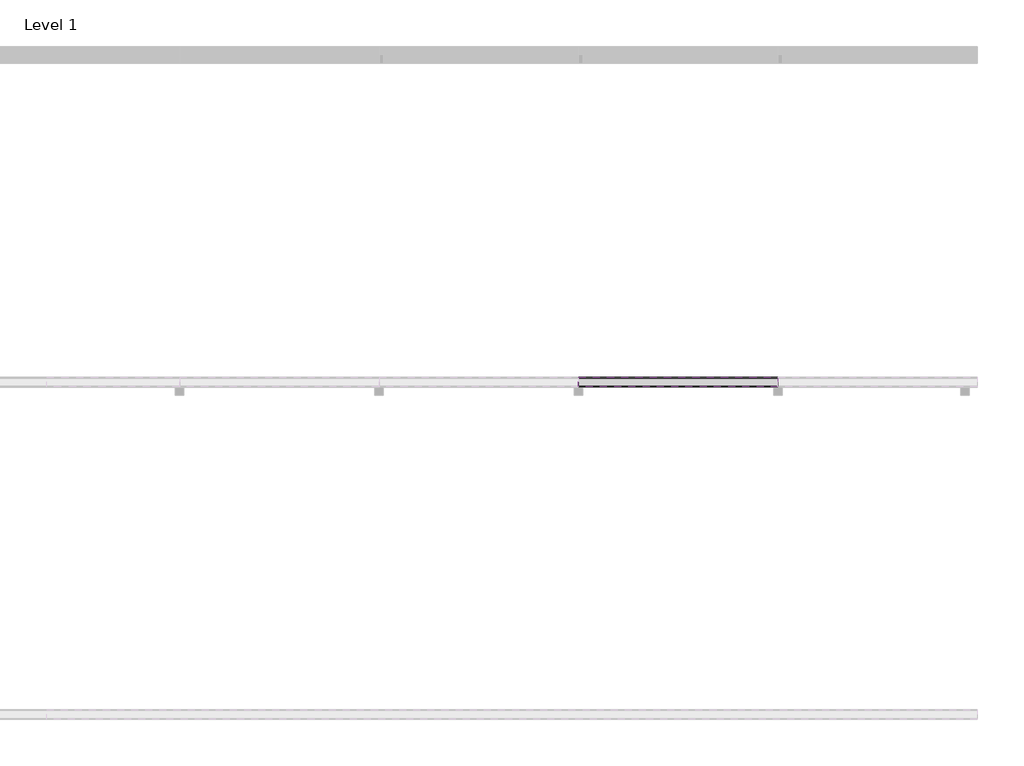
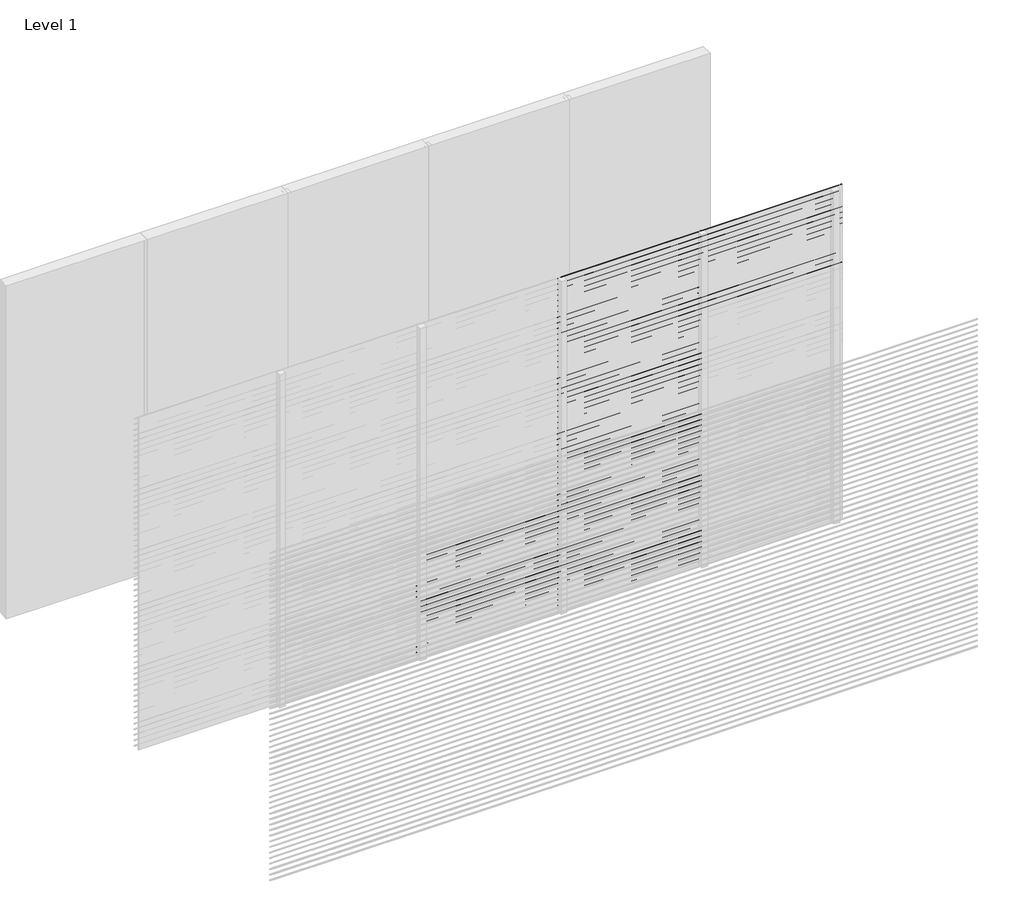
# One storey, part 8 of 16: 93 proxies.
"""IFC4 building model written with IfcOpenShell, lengths in millimetres."""

from ifc_helpers import new_model, si_unit, frame, origin, place, context, project, spatial, polyline, outline, extrude, element, save

model = new_model("IFC4")

# Units and contexts
model_context = context("Model", 3, world=origin())
ifc_project = project(units=[si_unit("LENGTHUNIT", "METRE", prefix="MILLI")], contexts=[model_context])

# Site, building, storey
site = spatial("IfcSite", under=ifc_project)
building = spatial("IfcBuilding", under=site)
storey = spatial("IfcBuildingStorey", under=building, Name="Level 1", Elevation=0.0)

# Proxies
placement = place(None, origin())
element("IfcBuildingElementProxy", 1, Name="Wall Sweeps", at=placement, inside=storey, context=model_context, shape_type="SweptSolid", body=[
    extrude(outline(polyline([(-11995.0, 900.0), (-11995.0, 898.0), (-11939.0, 854.0), (-11939.0, 846.0), (-11997.0, 891.5714286), (-11997.0, 900.0), (-11995.0, 900.0)])), frame((2400.0, 0.0, 0.0), z_axis=(1.0, 0.0, 0.0), x_axis=(0.0, 1.0, 0.0)), (0.0, 0.0, 1.0), 1200.0),
])
element("IfcBuildingElementProxy", 2, Name="Wall Sweeps", at=placement, inside=storey, context=model_context, shape_type="SweptSolid", body=[
    extrude(outline(polyline([(-11995.0, 850.0), (-11995.0, 848.0), (-11939.0, 804.0), (-11939.0, 796.0), (-11997.0, 841.5714286), (-11997.0, 850.0), (-11995.0, 850.0)])), frame((2400.0, 0.0, 0.0), z_axis=(1.0, 0.0, 0.0), x_axis=(0.0, 1.0, 0.0)), (0.0, 0.0, 1.0), 1200.0),
])
element("IfcBuildingElementProxy", 3, Name="Wall Sweeps", at=placement, inside=storey, context=model_context, shape_type="SweptSolid", body=[
    extrude(outline(polyline([(-11995.0, 800.0), (-11995.0, 798.0), (-11939.0, 754.0), (-11939.0, 746.0), (-11997.0, 791.5714286), (-11997.0, 800.0), (-11995.0, 800.0)])), frame((2400.0, 0.0, 0.0), z_axis=(1.0, 0.0, 0.0), x_axis=(0.0, 1.0, 0.0)), (0.0, 0.0, 1.0), 1200.0),
])
element("IfcBuildingElementProxy", 4, Name="Wall Sweeps", at=placement, inside=storey, context=model_context, shape_type="SweptSolid", body=[
    extrude(outline(polyline([(-11995.0, 750.0), (-11995.0, 748.0), (-11939.0, 704.0), (-11939.0, 696.0), (-11997.0, 741.5714286), (-11997.0, 750.0), (-11995.0, 750.0)])), frame((2400.0, 0.0, 0.0), z_axis=(1.0, 0.0, 0.0), x_axis=(0.0, 1.0, 0.0)), (0.0, 0.0, 1.0), 1200.0),
])
element("IfcBuildingElementProxy", 5, Name="Wall Sweeps", at=placement, inside=storey, context=model_context, shape_type="SweptSolid", body=[
    extrude(outline(polyline([(-11995.0, 700.0), (-11995.0, 698.0), (-11939.0, 654.0), (-11939.0, 646.0), (-11997.0, 691.5714286), (-11997.0, 700.0), (-11995.0, 700.0)])), frame((2400.0, 0.0, 0.0), z_axis=(1.0, 0.0, 0.0), x_axis=(0.0, 1.0, 0.0)), (0.0, 0.0, 1.0), 1200.0),
])
element("IfcBuildingElementProxy", 6, Name="Wall Sweeps", at=placement, inside=storey, context=model_context, shape_type="SweptSolid", body=[
    extrude(outline(polyline([(-11995.0, 650.0), (-11995.0, 648.0), (-11939.0, 604.0), (-11939.0, 596.0), (-11997.0, 641.5714286), (-11997.0, 650.0), (-11995.0, 650.0)])), frame((2400.0, 0.0, 0.0), z_axis=(1.0, 0.0, 0.0), x_axis=(0.0, 1.0, 0.0)), (0.0, 0.0, 1.0), 1200.0),
])
element("IfcBuildingElementProxy", 7, Name="Wall Sweeps", at=placement, inside=storey, context=model_context, shape_type="SweptSolid", body=[
    extrude(outline(polyline([(-11995.0, 600.0), (-11995.0, 598.0), (-11939.0, 554.0), (-11939.0, 546.0), (-11997.0, 591.5714286), (-11997.0, 600.0), (-11995.0, 600.0)])), frame((2400.0, 0.0, 0.0), z_axis=(1.0, 0.0, 0.0), x_axis=(0.0, 1.0, 0.0)), (0.0, 0.0, 1.0), 1200.0),
])
element("IfcBuildingElementProxy", 8, Name="Wall Sweeps", at=placement, inside=storey, context=model_context, shape_type="SweptSolid", body=[
    extrude(outline(polyline([(-11995.0, 550.0), (-11995.0, 548.0), (-11939.0, 504.0), (-11939.0, 496.0), (-11997.0, 541.5714286), (-11997.0, 550.0), (-11995.0, 550.0)])), frame((2400.0, 0.0, 0.0), z_axis=(1.0, 0.0, 0.0), x_axis=(0.0, 1.0, 0.0)), (0.0, 0.0, 1.0), 1200.0),
])
element("IfcBuildingElementProxy", 9, Name="Wall Sweeps", at=placement, inside=storey, context=model_context, shape_type="SweptSolid", body=[
    extrude(outline(polyline([(-11995.0, 500.0), (-11995.0, 498.0), (-11939.0, 454.0), (-11939.0, 446.0), (-11997.0, 491.5714286), (-11997.0, 500.0), (-11995.0, 500.0)])), frame((2400.0, 0.0, 0.0), z_axis=(1.0, 0.0, 0.0), x_axis=(0.0, 1.0, 0.0)), (0.0, 0.0, 1.0), 1200.0),
])
element("IfcBuildingElementProxy", 10, Name="Wall Sweeps", at=placement, inside=storey, context=model_context, shape_type="SweptSolid", body=[
    extrude(outline(polyline([(-11995.0, 450.0), (-11995.0, 448.0), (-11939.0, 404.0), (-11939.0, 396.0), (-11997.0, 441.5714286), (-11997.0, 450.0), (-11995.0, 450.0)])), frame((2400.0, 0.0, 0.0), z_axis=(1.0, 0.0, 0.0), x_axis=(0.0, 1.0, 0.0)), (0.0, 0.0, 1.0), 1200.0),
])
element("IfcBuildingElementProxy", 11, Name="Wall Sweeps", at=placement, inside=storey, context=model_context, shape_type="SweptSolid", body=[
    extrude(outline(polyline([(-11995.0, 400.0), (-11995.0, 398.0), (-11939.0, 354.0), (-11939.0, 346.0), (-11997.0, 391.5714286), (-11997.0, 400.0), (-11995.0, 400.0)])), frame((2400.0, 0.0, 0.0), z_axis=(1.0, 0.0, 0.0), x_axis=(0.0, 1.0, 0.0)), (0.0, 0.0, 1.0), 1200.0),
])
element("IfcBuildingElementProxy", 12, Name="Wall Sweeps", at=placement, inside=storey, context=model_context, shape_type="SweptSolid", body=[
    extrude(outline(polyline([(-11995.0, 350.0), (-11995.0, 348.0), (-11939.0, 304.0), (-11939.0, 296.0), (-11997.0, 341.5714286), (-11997.0, 350.0), (-11995.0, 350.0)])), frame((2400.0, 0.0, 0.0), z_axis=(1.0, 0.0, 0.0), x_axis=(0.0, 1.0, 0.0)), (0.0, 0.0, 1.0), 1200.0),
])
element("IfcBuildingElementProxy", 13, Name="Wall Sweeps", at=placement, inside=storey, context=model_context, shape_type="SweptSolid", body=[
    extrude(outline(polyline([(-11995.0, 300.0), (-11995.0, 298.0), (-11939.0, 254.0), (-11939.0, 246.0), (-11997.0, 291.5714286), (-11997.0, 300.0), (-11995.0, 300.0)])), frame((2400.0, 0.0, 0.0), z_axis=(1.0, 0.0, 0.0), x_axis=(0.0, 1.0, 0.0)), (0.0, 0.0, 1.0), 1200.0),
])
element("IfcBuildingElementProxy", 14, Name="Wall Sweeps", at=placement, inside=storey, context=model_context, shape_type="SweptSolid", body=[
    extrude(outline(polyline([(-11995.0, 250.0), (-11995.0, 248.0), (-11939.0, 204.0), (-11939.0, 196.0), (-11997.0, 241.5714286), (-11997.0, 250.0), (-11995.0, 250.0)])), frame((2400.0, 0.0, 0.0), z_axis=(1.0, 0.0, 0.0), x_axis=(0.0, 1.0, 0.0)), (0.0, 0.0, 1.0), 1200.0),
])
element("IfcBuildingElementProxy", 15, Name="Wall Sweeps", at=placement, inside=storey, context=model_context, shape_type="SweptSolid", body=[
    extrude(outline(polyline([(-11995.0, 200.0), (-11995.0, 198.0), (-11939.0, 154.0), (-11939.0, 146.0), (-11997.0, 191.5714286), (-11997.0, 200.0), (-11995.0, 200.0)])), frame((2400.0, 0.0, 0.0), z_axis=(1.0, 0.0, 0.0), x_axis=(0.0, 1.0, 0.0)), (0.0, 0.0, 1.0), 1200.0),
])
element("IfcBuildingElementProxy", 16, Name="Wall Sweeps", at=placement, inside=storey, context=model_context, shape_type="SweptSolid", body=[
    extrude(outline(polyline([(-11995.0, 150.0), (-11995.0, 148.0), (-11939.0, 104.0), (-11939.0, 96.0), (-11997.0, 141.5714286), (-11997.0, 150.0), (-11995.0, 150.0)])), frame((2400.0, 0.0, 0.0), z_axis=(1.0, 0.0, 0.0), x_axis=(0.0, 1.0, 0.0)), (0.0, 0.0, 1.0), 1200.0),
])
element("IfcBuildingElementProxy", 17, Name="Wall Sweeps", at=placement, inside=storey, context=model_context, shape_type="SweptSolid", body=[
    extrude(outline(polyline([(-11995.0, 100.0), (-11995.0, 98.0), (-11939.0, 54.0), (-11939.0, 46.0), (-11997.0, 91.5714286), (-11997.0, 100.0), (-11995.0, 100.0)])), frame((2400.0, 0.0, 0.0), z_axis=(1.0, 0.0, 0.0), x_axis=(0.0, 1.0, 0.0)), (0.0, 0.0, 1.0), 1200.0),
])
element("IfcBuildingElementProxy", 18, Name="Wall Sweeps", at=placement, inside=storey, context=model_context, shape_type="SweptSolid", body=[
    extrude(outline(polyline([(-11995.0, 50.0), (-11995.0, 48.0), (-11939.0, 4.0), (-11939.0, -4.0), (-11997.0, 41.5714286), (-11997.0, 50.0), (-11995.0, 50.0)])), frame((2400.0, 0.0, 0.0), z_axis=(1.0, 0.0, 0.0), x_axis=(0.0, 1.0, 0.0)), (0.0, 0.0, 1.0), 1200.0),
])
element("IfcBuildingElementProxy", 19, Name="Wall Sweeps", at=placement, inside=storey, context=model_context, shape_type="SweptSolid", body=[
    extrude(outline(polyline([(-11995.0, 3000.0), (-11995.0, 2998.0), (-11939.0, 2954.0), (-11939.0, 2946.0), (-11997.0, 2991.5714286), (-11997.0, 3000.0), (-11995.0, 3000.0)])), frame((3600.0, 0.0, 0.0), z_axis=(1.0, 0.0, 0.0), x_axis=(0.0, 1.0, 0.0)), (0.0, 0.0, 1.0), 1200.0),
])
element("IfcBuildingElementProxy", 20, Name="Wall Sweeps", at=placement, inside=storey, context=model_context, shape_type="SweptSolid", body=[
    extrude(outline(polyline([(-11995.0, 2950.0), (-11995.0, 2948.0), (-11939.0, 2904.0), (-11939.0, 2896.0), (-11997.0, 2941.5714286), (-11997.0, 2950.0), (-11995.0, 2950.0)])), frame((3600.0, 0.0, 0.0), z_axis=(1.0, 0.0, 0.0), x_axis=(0.0, 1.0, 0.0)), (0.0, 0.0, 1.0), 1200.0),
])
element("IfcBuildingElementProxy", 21, Name="Wall Sweeps", at=placement, inside=storey, context=model_context, shape_type="SweptSolid", body=[
    extrude(outline(polyline([(-11995.0, 2900.0), (-11995.0, 2898.0), (-11939.0, 2854.0), (-11939.0, 2846.0), (-11997.0, 2891.5714286), (-11997.0, 2900.0), (-11995.0, 2900.0)])), frame((3600.0, 0.0, 0.0), z_axis=(1.0, 0.0, 0.0), x_axis=(0.0, 1.0, 0.0)), (0.0, 0.0, 1.0), 1200.0),
])
element("IfcBuildingElementProxy", 22, Name="Wall Sweeps", at=placement, inside=storey, context=model_context, shape_type="SweptSolid", body=[
    extrude(outline(polyline([(-11995.0, 2850.0), (-11995.0, 2848.0), (-11939.0, 2804.0), (-11939.0, 2796.0), (-11997.0, 2841.5714286), (-11997.0, 2850.0), (-11995.0, 2850.0)])), frame((3600.0, 0.0, 0.0), z_axis=(1.0, 0.0, 0.0), x_axis=(0.0, 1.0, 0.0)), (0.0, 0.0, 1.0), 1200.0),
])
element("IfcBuildingElementProxy", 23, Name="Wall Sweeps", at=placement, inside=storey, context=model_context, shape_type="SweptSolid", body=[
    extrude(outline(polyline([(-11995.0, 2800.0), (-11995.0, 2798.0), (-11939.0, 2754.0), (-11939.0, 2746.0), (-11997.0, 2791.5714286), (-11997.0, 2800.0), (-11995.0, 2800.0)])), frame((3600.0, 0.0, 0.0), z_axis=(1.0, 0.0, 0.0), x_axis=(0.0, 1.0, 0.0)), (0.0, 0.0, 1.0), 1200.0),
])
element("IfcBuildingElementProxy", 24, Name="Wall Sweeps", at=placement, inside=storey, context=model_context, shape_type="SweptSolid", body=[
    extrude(outline(polyline([(-11995.0, 2750.0), (-11995.0, 2748.0), (-11939.0, 2704.0), (-11939.0, 2696.0), (-11997.0, 2741.5714286), (-11997.0, 2750.0), (-11995.0, 2750.0)])), frame((3600.0, 0.0, 0.0), z_axis=(1.0, 0.0, 0.0), x_axis=(0.0, 1.0, 0.0)), (0.0, 0.0, 1.0), 1200.0),
])
element("IfcBuildingElementProxy", 25, Name="Wall Sweeps", at=placement, inside=storey, context=model_context, shape_type="SweptSolid", body=[
    extrude(outline(polyline([(-11995.0, 2700.0), (-11995.0, 2698.0), (-11939.0, 2654.0), (-11939.0, 2646.0), (-11997.0, 2691.5714286), (-11997.0, 2700.0), (-11995.0, 2700.0)])), frame((3600.0, 0.0, 0.0), z_axis=(1.0, 0.0, 0.0), x_axis=(0.0, 1.0, 0.0)), (0.0, 0.0, 1.0), 1200.0),
])
element("IfcBuildingElementProxy", 26, Name="Wall Sweeps", at=placement, inside=storey, context=model_context, shape_type="SweptSolid", body=[
    extrude(outline(polyline([(-11995.0, 2650.0), (-11995.0, 2648.0), (-11939.0, 2604.0), (-11939.0, 2596.0), (-11997.0, 2641.5714286), (-11997.0, 2650.0), (-11995.0, 2650.0)])), frame((3600.0, 0.0, 0.0), z_axis=(1.0, 0.0, 0.0), x_axis=(0.0, 1.0, 0.0)), (0.0, 0.0, 1.0), 1200.0),
])
element("IfcBuildingElementProxy", 27, Name="Wall Sweeps", at=placement, inside=storey, context=model_context, shape_type="SweptSolid", body=[
    extrude(outline(polyline([(-11995.0, 2600.0), (-11995.0, 2598.0), (-11939.0, 2554.0), (-11939.0, 2546.0), (-11997.0, 2591.5714286), (-11997.0, 2600.0), (-11995.0, 2600.0)])), frame((3600.0, 0.0, 0.0), z_axis=(1.0, 0.0, 0.0), x_axis=(0.0, 1.0, 0.0)), (0.0, 0.0, 1.0), 1200.0),
])
element("IfcBuildingElementProxy", 28, Name="Wall Sweeps", at=placement, inside=storey, context=model_context, shape_type="SweptSolid", body=[
    extrude(outline(polyline([(-11995.0, 2550.0), (-11995.0, 2548.0), (-11939.0, 2504.0), (-11939.0, 2496.0), (-11997.0, 2541.5714286), (-11997.0, 2550.0), (-11995.0, 2550.0)])), frame((3600.0, 0.0, 0.0), z_axis=(1.0, 0.0, 0.0), x_axis=(0.0, 1.0, 0.0)), (0.0, 0.0, 1.0), 1200.0),
])
element("IfcBuildingElementProxy", 29, Name="Wall Sweeps", at=placement, inside=storey, context=model_context, shape_type="SweptSolid", body=[
    extrude(outline(polyline([(-11995.0, 2500.0), (-11995.0, 2498.0), (-11939.0, 2454.0), (-11939.0, 2446.0), (-11997.0, 2491.5714286), (-11997.0, 2500.0), (-11995.0, 2500.0)])), frame((3600.0, 0.0, 0.0), z_axis=(1.0, 0.0, 0.0), x_axis=(0.0, 1.0, 0.0)), (0.0, 0.0, 1.0), 1200.0),
])
element("IfcBuildingElementProxy", 30, Name="Wall Sweeps", at=placement, inside=storey, context=model_context, shape_type="SweptSolid", body=[
    extrude(outline(polyline([(-11995.0, 2450.0), (-11995.0, 2448.0), (-11939.0, 2404.0), (-11939.0, 2396.0), (-11997.0, 2441.5714286), (-11997.0, 2450.0), (-11995.0, 2450.0)])), frame((3600.0, 0.0, 0.0), z_axis=(1.0, 0.0, 0.0), x_axis=(0.0, 1.0, 0.0)), (0.0, 0.0, 1.0), 1200.0),
])
element("IfcBuildingElementProxy", 31, Name="Wall Sweeps", at=placement, inside=storey, context=model_context, shape_type="SweptSolid", body=[
    extrude(outline(polyline([(-11995.0, 2400.0), (-11995.0, 2398.0), (-11939.0, 2354.0), (-11939.0, 2346.0), (-11997.0, 2391.5714286), (-11997.0, 2400.0), (-11995.0, 2400.0)])), frame((3600.0, 0.0, 0.0), z_axis=(1.0, 0.0, 0.0), x_axis=(0.0, 1.0, 0.0)), (0.0, 0.0, 1.0), 1200.0),
])
element("IfcBuildingElementProxy", 32, Name="Wall Sweeps", at=placement, inside=storey, context=model_context, shape_type="SweptSolid", body=[
    extrude(outline(polyline([(-11995.0, 2350.0), (-11995.0, 2348.0), (-11939.0, 2304.0), (-11939.0, 2296.0), (-11997.0, 2341.5714286), (-11997.0, 2350.0), (-11995.0, 2350.0)])), frame((3600.0, 0.0, 0.0), z_axis=(1.0, 0.0, 0.0), x_axis=(0.0, 1.0, 0.0)), (0.0, 0.0, 1.0), 1200.0),
])
element("IfcBuildingElementProxy", 33, Name="Wall Sweeps", at=placement, inside=storey, context=model_context, shape_type="SweptSolid", body=[
    extrude(outline(polyline([(-11995.0, 2300.0), (-11995.0, 2298.0), (-11939.0, 2254.0), (-11939.0, 2246.0), (-11997.0, 2291.5714286), (-11997.0, 2300.0), (-11995.0, 2300.0)])), frame((3600.0, 0.0, 0.0), z_axis=(1.0, 0.0, 0.0), x_axis=(0.0, 1.0, 0.0)), (0.0, 0.0, 1.0), 1200.0),
])
element("IfcBuildingElementProxy", 34, Name="Wall Sweeps", at=placement, inside=storey, context=model_context, shape_type="SweptSolid", body=[
    extrude(outline(polyline([(-11995.0, 2250.0), (-11995.0, 2248.0), (-11939.0, 2204.0), (-11939.0, 2196.0), (-11997.0, 2241.5714286), (-11997.0, 2250.0), (-11995.0, 2250.0)])), frame((3600.0, 0.0, 0.0), z_axis=(1.0, 0.0, 0.0), x_axis=(0.0, 1.0, 0.0)), (0.0, 0.0, 1.0), 1200.0),
])
element("IfcBuildingElementProxy", 35, Name="Wall Sweeps", at=placement, inside=storey, context=model_context, shape_type="SweptSolid", body=[
    extrude(outline(polyline([(-11995.0, 2200.0), (-11995.0, 2198.0), (-11939.0, 2154.0), (-11939.0, 2146.0), (-11997.0, 2191.5714286), (-11997.0, 2200.0), (-11995.0, 2200.0)])), frame((3600.0, 0.0, 0.0), z_axis=(1.0, 0.0, 0.0), x_axis=(0.0, 1.0, 0.0)), (0.0, 0.0, 1.0), 1200.0),
])
element("IfcBuildingElementProxy", 36, Name="Wall Sweeps", at=placement, inside=storey, context=model_context, shape_type="SweptSolid", body=[
    extrude(outline(polyline([(-11995.0, 2150.0), (-11995.0, 2148.0), (-11939.0, 2104.0), (-11939.0, 2096.0), (-11997.0, 2141.5714286), (-11997.0, 2150.0), (-11995.0, 2150.0)])), frame((3600.0, 0.0, 0.0), z_axis=(1.0, 0.0, 0.0), x_axis=(0.0, 1.0, 0.0)), (0.0, 0.0, 1.0), 1200.0),
])
element("IfcBuildingElementProxy", 37, Name="Wall Sweeps", at=placement, inside=storey, context=model_context, shape_type="SweptSolid", body=[
    extrude(outline(polyline([(-11995.0, 2100.0), (-11995.0, 2098.0), (-11939.0, 2054.0), (-11939.0, 2046.0), (-11997.0, 2091.5714286), (-11997.0, 2100.0), (-11995.0, 2100.0)])), frame((3600.0, 0.0, 0.0), z_axis=(1.0, 0.0, 0.0), x_axis=(0.0, 1.0, 0.0)), (0.0, 0.0, 1.0), 1200.0),
])
element("IfcBuildingElementProxy", 38, Name="Wall Sweeps", at=placement, inside=storey, context=model_context, shape_type="SweptSolid", body=[
    extrude(outline(polyline([(-11995.0, 2050.0), (-11995.0, 2048.0), (-11939.0, 2004.0), (-11939.0, 1996.0), (-11997.0, 2041.5714286), (-11997.0, 2050.0), (-11995.0, 2050.0)])), frame((3600.0, 0.0, 0.0), z_axis=(1.0, 0.0, 0.0), x_axis=(0.0, 1.0, 0.0)), (0.0, 0.0, 1.0), 1200.0),
])
element("IfcBuildingElementProxy", 39, Name="Wall Sweeps", at=placement, inside=storey, context=model_context, shape_type="SweptSolid", body=[
    extrude(outline(polyline([(-11995.0, 2000.0), (-11995.0, 1998.0), (-11939.0, 1954.0), (-11939.0, 1946.0), (-11997.0, 1991.5714286), (-11997.0, 2000.0), (-11995.0, 2000.0)])), frame((3600.0, 0.0, 0.0), z_axis=(1.0, 0.0, 0.0), x_axis=(0.0, 1.0, 0.0)), (0.0, 0.0, 1.0), 1200.0),
])
element("IfcBuildingElementProxy", 40, Name="Wall Sweeps", at=placement, inside=storey, context=model_context, shape_type="SweptSolid", body=[
    extrude(outline(polyline([(-11995.0, 1950.0), (-11995.0, 1948.0), (-11939.0, 1904.0), (-11939.0, 1896.0), (-11997.0, 1941.5714286), (-11997.0, 1950.0), (-11995.0, 1950.0)])), frame((3600.0, 0.0, 0.0), z_axis=(1.0, 0.0, 0.0), x_axis=(0.0, 1.0, 0.0)), (0.0, 0.0, 1.0), 1200.0),
])
element("IfcBuildingElementProxy", 41, Name="Wall Sweeps", at=placement, inside=storey, context=model_context, shape_type="SweptSolid", body=[
    extrude(outline(polyline([(-11995.0, 1900.0), (-11995.0, 1898.0), (-11939.0, 1854.0), (-11939.0, 1846.0), (-11997.0, 1891.5714286), (-11997.0, 1900.0), (-11995.0, 1900.0)])), frame((3600.0, 0.0, 0.0), z_axis=(1.0, 0.0, 0.0), x_axis=(0.0, 1.0, 0.0)), (0.0, 0.0, 1.0), 1200.0),
])
element("IfcBuildingElementProxy", 42, Name="Wall Sweeps", at=placement, inside=storey, context=model_context, shape_type="SweptSolid", body=[
    extrude(outline(polyline([(-11995.0, 1850.0), (-11995.0, 1848.0), (-11939.0, 1804.0), (-11939.0, 1796.0), (-11997.0, 1841.5714286), (-11997.0, 1850.0), (-11995.0, 1850.0)])), frame((3600.0, 0.0, 0.0), z_axis=(1.0, 0.0, 0.0), x_axis=(0.0, 1.0, 0.0)), (0.0, 0.0, 1.0), 1200.0),
])
element("IfcBuildingElementProxy", 43, Name="Wall Sweeps", at=placement, inside=storey, context=model_context, shape_type="SweptSolid", body=[
    extrude(outline(polyline([(-11995.0, 1800.0), (-11995.0, 1798.0), (-11939.0, 1754.0), (-11939.0, 1746.0), (-11997.0, 1791.5714286), (-11997.0, 1800.0), (-11995.0, 1800.0)])), frame((3600.0, 0.0, 0.0), z_axis=(1.0, 0.0, 0.0), x_axis=(0.0, 1.0, 0.0)), (0.0, 0.0, 1.0), 1200.0),
])
element("IfcBuildingElementProxy", 44, Name="Wall Sweeps", at=placement, inside=storey, context=model_context, shape_type="SweptSolid", body=[
    extrude(outline(polyline([(-11995.0, 1750.0), (-11995.0, 1748.0), (-11939.0, 1704.0), (-11939.0, 1696.0), (-11997.0, 1741.5714286), (-11997.0, 1750.0), (-11995.0, 1750.0)])), frame((3600.0, 0.0, 0.0), z_axis=(1.0, 0.0, 0.0), x_axis=(0.0, 1.0, 0.0)), (0.0, 0.0, 1.0), 1200.0),
])
element("IfcBuildingElementProxy", 45, Name="Wall Sweeps", at=placement, inside=storey, context=model_context, shape_type="SweptSolid", body=[
    extrude(outline(polyline([(-11995.0, 1700.0), (-11995.0, 1698.0), (-11939.0, 1654.0), (-11939.0, 1646.0), (-11997.0, 1691.5714286), (-11997.0, 1700.0), (-11995.0, 1700.0)])), frame((3600.0, 0.0, 0.0), z_axis=(1.0, 0.0, 0.0), x_axis=(0.0, 1.0, 0.0)), (0.0, 0.0, 1.0), 1200.0),
])
element("IfcBuildingElementProxy", 46, Name="Wall Sweeps", at=placement, inside=storey, context=model_context, shape_type="SweptSolid", body=[
    extrude(outline(polyline([(-11995.0, 1650.0), (-11995.0, 1648.0), (-11939.0, 1604.0), (-11939.0, 1596.0), (-11997.0, 1641.5714286), (-11997.0, 1650.0), (-11995.0, 1650.0)])), frame((3600.0, 0.0, 0.0), z_axis=(1.0, 0.0, 0.0), x_axis=(0.0, 1.0, 0.0)), (0.0, 0.0, 1.0), 1200.0),
])
element("IfcBuildingElementProxy", 47, Name="Wall Sweeps", at=placement, inside=storey, context=model_context, shape_type="SweptSolid", body=[
    extrude(outline(polyline([(-11995.0, 1600.0), (-11995.0, 1598.0), (-11939.0, 1554.0), (-11939.0, 1546.0), (-11997.0, 1591.5714286), (-11997.0, 1600.0), (-11995.0, 1600.0)])), frame((3600.0, 0.0, 0.0), z_axis=(1.0, 0.0, 0.0), x_axis=(0.0, 1.0, 0.0)), (0.0, 0.0, 1.0), 1200.0),
])
element("IfcBuildingElementProxy", 48, Name="Wall Sweeps", at=placement, inside=storey, context=model_context, shape_type="SweptSolid", body=[
    extrude(outline(polyline([(-11995.0, 1550.0), (-11995.0, 1548.0), (-11939.0, 1504.0), (-11939.0, 1496.0), (-11997.0, 1541.5714286), (-11997.0, 1550.0), (-11995.0, 1550.0)])), frame((3600.0, 0.0, 0.0), z_axis=(1.0, 0.0, 0.0), x_axis=(0.0, 1.0, 0.0)), (0.0, 0.0, 1.0), 1200.0),
])
element("IfcBuildingElementProxy", 49, Name="Wall Sweeps", at=placement, inside=storey, context=model_context, shape_type="SweptSolid", body=[
    extrude(outline(polyline([(-11995.0, 1500.0), (-11995.0, 1498.0), (-11939.0, 1454.0), (-11939.0, 1446.0), (-11997.0, 1491.5714286), (-11997.0, 1500.0), (-11995.0, 1500.0)])), frame((3600.0, 0.0, 0.0), z_axis=(1.0, 0.0, 0.0), x_axis=(0.0, 1.0, 0.0)), (0.0, 0.0, 1.0), 1200.0),
])
element("IfcBuildingElementProxy", 50, Name="Wall Sweeps", at=placement, inside=storey, context=model_context, shape_type="SweptSolid", body=[
    extrude(outline(polyline([(-11995.0, 1450.0), (-11995.0, 1448.0), (-11939.0, 1404.0), (-11939.0, 1396.0), (-11997.0, 1441.5714286), (-11997.0, 1450.0), (-11995.0, 1450.0)])), frame((3600.0, 0.0, 0.0), z_axis=(1.0, 0.0, 0.0), x_axis=(0.0, 1.0, 0.0)), (0.0, 0.0, 1.0), 1200.0),
])
element("IfcBuildingElementProxy", 51, Name="Wall Sweeps", at=placement, inside=storey, context=model_context, shape_type="SweptSolid", body=[
    extrude(outline(polyline([(-11995.0, 1400.0), (-11995.0, 1398.0), (-11939.0, 1354.0), (-11939.0, 1346.0), (-11997.0, 1391.5714286), (-11997.0, 1400.0), (-11995.0, 1400.0)])), frame((3600.0, 0.0, 0.0), z_axis=(1.0, 0.0, 0.0), x_axis=(0.0, 1.0, 0.0)), (0.0, 0.0, 1.0), 1200.0),
])
element("IfcBuildingElementProxy", 52, Name="Wall Sweeps", at=placement, inside=storey, context=model_context, shape_type="SweptSolid", body=[
    extrude(outline(polyline([(-11995.0, 1350.0), (-11995.0, 1348.0), (-11939.0, 1304.0), (-11939.0, 1296.0), (-11997.0, 1341.5714286), (-11997.0, 1350.0), (-11995.0, 1350.0)])), frame((3600.0, 0.0, 0.0), z_axis=(1.0, 0.0, 0.0), x_axis=(0.0, 1.0, 0.0)), (0.0, 0.0, 1.0), 1200.0),
])
element("IfcBuildingElementProxy", 53, Name="Wall Sweeps", at=placement, inside=storey, context=model_context, shape_type="SweptSolid", body=[
    extrude(outline(polyline([(-11995.0, 1300.0), (-11995.0, 1298.0), (-11939.0, 1254.0), (-11939.0, 1246.0), (-11997.0, 1291.5714286), (-11997.0, 1300.0), (-11995.0, 1300.0)])), frame((3600.0, 0.0, 0.0), z_axis=(1.0, 0.0, 0.0), x_axis=(0.0, 1.0, 0.0)), (0.0, 0.0, 1.0), 1200.0),
])
element("IfcBuildingElementProxy", 54, Name="Wall Sweeps", at=placement, inside=storey, context=model_context, shape_type="SweptSolid", body=[
    extrude(outline(polyline([(-11995.0, 1250.0), (-11995.0, 1248.0), (-11939.0, 1204.0), (-11939.0, 1196.0), (-11997.0, 1241.5714286), (-11997.0, 1250.0), (-11995.0, 1250.0)])), frame((3600.0, 0.0, 0.0), z_axis=(1.0, 0.0, 0.0), x_axis=(0.0, 1.0, 0.0)), (0.0, 0.0, 1.0), 1200.0),
])
element("IfcBuildingElementProxy", 55, Name="Wall Sweeps", at=placement, inside=storey, context=model_context, shape_type="SweptSolid", body=[
    extrude(outline(polyline([(-11995.0, 1200.0), (-11995.0, 1198.0), (-11939.0, 1154.0), (-11939.0, 1146.0), (-11997.0, 1191.5714286), (-11997.0, 1200.0), (-11995.0, 1200.0)])), frame((3600.0, 0.0, 0.0), z_axis=(1.0, 0.0, 0.0), x_axis=(0.0, 1.0, 0.0)), (0.0, 0.0, 1.0), 1200.0),
])
element("IfcBuildingElementProxy", 56, Name="Wall Sweeps", at=placement, inside=storey, context=model_context, shape_type="SweptSolid", body=[
    extrude(outline(polyline([(-11995.0, 1150.0), (-11995.0, 1148.0), (-11939.0, 1104.0), (-11939.0, 1096.0), (-11997.0, 1141.5714286), (-11997.0, 1150.0), (-11995.0, 1150.0)])), frame((3600.0, 0.0, 0.0), z_axis=(1.0, 0.0, 0.0), x_axis=(0.0, 1.0, 0.0)), (0.0, 0.0, 1.0), 1200.0),
])
element("IfcBuildingElementProxy", 57, Name="Wall Sweeps", at=placement, inside=storey, context=model_context, shape_type="SweptSolid", body=[
    extrude(outline(polyline([(-11995.0, 1100.0), (-11995.0, 1098.0), (-11939.0, 1054.0), (-11939.0, 1046.0), (-11997.0, 1091.5714286), (-11997.0, 1100.0), (-11995.0, 1100.0)])), frame((3600.0, 0.0, 0.0), z_axis=(1.0, 0.0, 0.0), x_axis=(0.0, 1.0, 0.0)), (0.0, 0.0, 1.0), 1200.0),
])
element("IfcBuildingElementProxy", 58, Name="Wall Sweeps", at=placement, inside=storey, context=model_context, shape_type="SweptSolid", body=[
    extrude(outline(polyline([(-11995.0, 1050.0), (-11995.0, 1048.0), (-11939.0, 1004.0), (-11939.0, 996.0), (-11997.0, 1041.5714286), (-11997.0, 1050.0), (-11995.0, 1050.0)])), frame((3600.0, 0.0, 0.0), z_axis=(1.0, 0.0, 0.0), x_axis=(0.0, 1.0, 0.0)), (0.0, 0.0, 1.0), 1200.0),
])
element("IfcBuildingElementProxy", 59, Name="Wall Sweeps", at=placement, inside=storey, context=model_context, shape_type="SweptSolid", body=[
    extrude(outline(polyline([(-11995.0, 1000.0), (-11995.0, 998.0), (-11939.0, 954.0), (-11939.0, 946.0), (-11997.0, 991.5714286), (-11997.0, 1000.0), (-11995.0, 1000.0)])), frame((3600.0, 0.0, 0.0), z_axis=(1.0, 0.0, 0.0), x_axis=(0.0, 1.0, 0.0)), (0.0, 0.0, 1.0), 1200.0),
])
element("IfcBuildingElementProxy", 60, Name="Wall Sweeps", at=placement, inside=storey, context=model_context, shape_type="SweptSolid", body=[
    extrude(outline(polyline([(-11995.0, 950.0), (-11995.0, 948.0), (-11939.0, 904.0), (-11939.0, 896.0), (-11997.0, 941.5714286), (-11997.0, 950.0), (-11995.0, 950.0)])), frame((3600.0, 0.0, 0.0), z_axis=(1.0, 0.0, 0.0), x_axis=(0.0, 1.0, 0.0)), (0.0, 0.0, 1.0), 1200.0),
])
element("IfcBuildingElementProxy", 61, Name="Wall Sweeps", at=placement, inside=storey, context=model_context, shape_type="SweptSolid", body=[
    extrude(outline(polyline([(-11995.0, 900.0), (-11995.0, 898.0), (-11939.0, 854.0), (-11939.0, 846.0), (-11997.0, 891.5714286), (-11997.0, 900.0), (-11995.0, 900.0)])), frame((3600.0, 0.0, 0.0), z_axis=(1.0, 0.0, 0.0), x_axis=(0.0, 1.0, 0.0)), (0.0, 0.0, 1.0), 1200.0),
])
element("IfcBuildingElementProxy", 62, Name="Wall Sweeps", at=placement, inside=storey, context=model_context, shape_type="SweptSolid", body=[
    extrude(outline(polyline([(-11995.0, 850.0), (-11995.0, 848.0), (-11939.0, 804.0), (-11939.0, 796.0), (-11997.0, 841.5714286), (-11997.0, 850.0), (-11995.0, 850.0)])), frame((3600.0, 0.0, 0.0), z_axis=(1.0, 0.0, 0.0), x_axis=(0.0, 1.0, 0.0)), (0.0, 0.0, 1.0), 1200.0),
])
element("IfcBuildingElementProxy", 63, Name="Wall Sweeps", at=placement, inside=storey, context=model_context, shape_type="SweptSolid", body=[
    extrude(outline(polyline([(-11995.0, 800.0), (-11995.0, 798.0), (-11939.0, 754.0), (-11939.0, 746.0), (-11997.0, 791.5714286), (-11997.0, 800.0), (-11995.0, 800.0)])), frame((3600.0, 0.0, 0.0), z_axis=(1.0, 0.0, 0.0), x_axis=(0.0, 1.0, 0.0)), (0.0, 0.0, 1.0), 1200.0),
])
element("IfcBuildingElementProxy", 64, Name="Wall Sweeps", at=placement, inside=storey, context=model_context, shape_type="SweptSolid", body=[
    extrude(outline(polyline([(-11995.0, 750.0), (-11995.0, 748.0), (-11939.0, 704.0), (-11939.0, 696.0), (-11997.0, 741.5714286), (-11997.0, 750.0), (-11995.0, 750.0)])), frame((3600.0, 0.0, 0.0), z_axis=(1.0, 0.0, 0.0), x_axis=(0.0, 1.0, 0.0)), (0.0, 0.0, 1.0), 1200.0),
])
element("IfcBuildingElementProxy", 65, Name="Wall Sweeps", at=placement, inside=storey, context=model_context, shape_type="SweptSolid", body=[
    extrude(outline(polyline([(-11995.0, 700.0), (-11995.0, 698.0), (-11939.0, 654.0), (-11939.0, 646.0), (-11997.0, 691.5714286), (-11997.0, 700.0), (-11995.0, 700.0)])), frame((3600.0, 0.0, 0.0), z_axis=(1.0, 0.0, 0.0), x_axis=(0.0, 1.0, 0.0)), (0.0, 0.0, 1.0), 1200.0),
])
element("IfcBuildingElementProxy", 66, Name="Wall Sweeps", at=placement, inside=storey, context=model_context, shape_type="SweptSolid", body=[
    extrude(outline(polyline([(-11995.0, 650.0), (-11995.0, 648.0), (-11939.0, 604.0), (-11939.0, 596.0), (-11997.0, 641.5714286), (-11997.0, 650.0), (-11995.0, 650.0)])), frame((3600.0, 0.0, 0.0), z_axis=(1.0, 0.0, 0.0), x_axis=(0.0, 1.0, 0.0)), (0.0, 0.0, 1.0), 1200.0),
])
element("IfcBuildingElementProxy", 67, Name="Wall Sweeps", at=placement, inside=storey, context=model_context, shape_type="SweptSolid", body=[
    extrude(outline(polyline([(-11995.0, 600.0), (-11995.0, 598.0), (-11939.0, 554.0), (-11939.0, 546.0), (-11997.0, 591.5714286), (-11997.0, 600.0), (-11995.0, 600.0)])), frame((3600.0, 0.0, 0.0), z_axis=(1.0, 0.0, 0.0), x_axis=(0.0, 1.0, 0.0)), (0.0, 0.0, 1.0), 1200.0),
])
element("IfcBuildingElementProxy", 68, Name="Wall Sweeps", at=placement, inside=storey, context=model_context, shape_type="SweptSolid", body=[
    extrude(outline(polyline([(-11995.0, 550.0), (-11995.0, 548.0), (-11939.0, 504.0), (-11939.0, 496.0), (-11997.0, 541.5714286), (-11997.0, 550.0), (-11995.0, 550.0)])), frame((3600.0, 0.0, 0.0), z_axis=(1.0, 0.0, 0.0), x_axis=(0.0, 1.0, 0.0)), (0.0, 0.0, 1.0), 1200.0),
])
element("IfcBuildingElementProxy", 69, Name="Wall Sweeps", at=placement, inside=storey, context=model_context, shape_type="SweptSolid", body=[
    extrude(outline(polyline([(-11995.0, 500.0), (-11995.0, 498.0), (-11939.0, 454.0), (-11939.0, 446.0), (-11997.0, 491.5714286), (-11997.0, 500.0), (-11995.0, 500.0)])), frame((3600.0, 0.0, 0.0), z_axis=(1.0, 0.0, 0.0), x_axis=(0.0, 1.0, 0.0)), (0.0, 0.0, 1.0), 1200.0),
])
element("IfcBuildingElementProxy", 70, Name="Wall Sweeps", at=placement, inside=storey, context=model_context, shape_type="SweptSolid", body=[
    extrude(outline(polyline([(-11995.0, 450.0), (-11995.0, 448.0), (-11939.0, 404.0), (-11939.0, 396.0), (-11997.0, 441.5714286), (-11997.0, 450.0), (-11995.0, 450.0)])), frame((3600.0, 0.0, 0.0), z_axis=(1.0, 0.0, 0.0), x_axis=(0.0, 1.0, 0.0)), (0.0, 0.0, 1.0), 1200.0),
])
element("IfcBuildingElementProxy", 71, Name="Wall Sweeps", at=placement, inside=storey, context=model_context, shape_type="SweptSolid", body=[
    extrude(outline(polyline([(-11995.0, 400.0), (-11995.0, 398.0), (-11939.0, 354.0), (-11939.0, 346.0), (-11997.0, 391.5714286), (-11997.0, 400.0), (-11995.0, 400.0)])), frame((3600.0, 0.0, 0.0), z_axis=(1.0, 0.0, 0.0), x_axis=(0.0, 1.0, 0.0)), (0.0, 0.0, 1.0), 1200.0),
])
element("IfcBuildingElementProxy", 72, Name="Wall Sweeps", at=placement, inside=storey, context=model_context, shape_type="SweptSolid", body=[
    extrude(outline(polyline([(-11995.0, 350.0), (-11995.0, 348.0), (-11939.0, 304.0), (-11939.0, 296.0), (-11997.0, 341.5714286), (-11997.0, 350.0), (-11995.0, 350.0)])), frame((3600.0, 0.0, 0.0), z_axis=(1.0, 0.0, 0.0), x_axis=(0.0, 1.0, 0.0)), (0.0, 0.0, 1.0), 1200.0),
])
element("IfcBuildingElementProxy", 73, Name="Wall Sweeps", at=placement, inside=storey, context=model_context, shape_type="SweptSolid", body=[
    extrude(outline(polyline([(-11995.0, 300.0), (-11995.0, 298.0), (-11939.0, 254.0), (-11939.0, 246.0), (-11997.0, 291.5714286), (-11997.0, 300.0), (-11995.0, 300.0)])), frame((3600.0, 0.0, 0.0), z_axis=(1.0, 0.0, 0.0), x_axis=(0.0, 1.0, 0.0)), (0.0, 0.0, 1.0), 1200.0),
])
element("IfcBuildingElementProxy", 74, Name="Wall Sweeps", at=placement, inside=storey, context=model_context, shape_type="SweptSolid", body=[
    extrude(outline(polyline([(-11995.0, 250.0), (-11995.0, 248.0), (-11939.0, 204.0), (-11939.0, 196.0), (-11997.0, 241.5714286), (-11997.0, 250.0), (-11995.0, 250.0)])), frame((3600.0, 0.0, 0.0), z_axis=(1.0, 0.0, 0.0), x_axis=(0.0, 1.0, 0.0)), (0.0, 0.0, 1.0), 1200.0),
])
element("IfcBuildingElementProxy", 75, Name="Wall Sweeps", at=placement, inside=storey, context=model_context, shape_type="SweptSolid", body=[
    extrude(outline(polyline([(-11995.0, 200.0), (-11995.0, 198.0), (-11939.0, 154.0), (-11939.0, 146.0), (-11997.0, 191.5714286), (-11997.0, 200.0), (-11995.0, 200.0)])), frame((3600.0, 0.0, 0.0), z_axis=(1.0, 0.0, 0.0), x_axis=(0.0, 1.0, 0.0)), (0.0, 0.0, 1.0), 1200.0),
])
element("IfcBuildingElementProxy", 76, Name="Wall Sweeps", at=placement, inside=storey, context=model_context, shape_type="SweptSolid", body=[
    extrude(outline(polyline([(-11995.0, 150.0), (-11995.0, 148.0), (-11939.0, 104.0), (-11939.0, 96.0), (-11997.0, 141.5714286), (-11997.0, 150.0), (-11995.0, 150.0)])), frame((3600.0, 0.0, 0.0), z_axis=(1.0, 0.0, 0.0), x_axis=(0.0, 1.0, 0.0)), (0.0, 0.0, 1.0), 1200.0),
])
element("IfcBuildingElementProxy", 77, Name="Wall Sweeps", at=placement, inside=storey, context=model_context, shape_type="SweptSolid", body=[
    extrude(outline(polyline([(-11995.0, 100.0), (-11995.0, 98.0), (-11939.0, 54.0), (-11939.0, 46.0), (-11997.0, 91.5714286), (-11997.0, 100.0), (-11995.0, 100.0)])), frame((3600.0, 0.0, 0.0), z_axis=(1.0, 0.0, 0.0), x_axis=(0.0, 1.0, 0.0)), (0.0, 0.0, 1.0), 1200.0),
])
element("IfcBuildingElementProxy", 78, Name="Wall Sweeps", at=placement, inside=storey, context=model_context, shape_type="SweptSolid", body=[
    extrude(outline(polyline([(-11995.0, 50.0), (-11995.0, 48.0), (-11939.0, 4.0), (-11939.0, -4.0), (-11997.0, 41.5714286), (-11997.0, 50.0), (-11995.0, 50.0)])), frame((3600.0, 0.0, 0.0), z_axis=(1.0, 0.0, 0.0), x_axis=(0.0, 1.0, 0.0)), (0.0, 0.0, 1.0), 1200.0),
])
element("IfcBuildingElementProxy", 79, Name="Wall Sweeps", at=placement, inside=storey, context=model_context, shape_type="SweptSolid", body=[
    extrude(outline(polyline([(-11995.0, 3000.0), (-11995.0, 2998.0), (-11939.0, 2954.0), (-11939.0, 2946.0), (-11997.0, 2991.5714286), (-11997.0, 3000.0), (-11995.0, 3000.0)])), frame((4800.0, 0.0, 0.0), z_axis=(1.0, 0.0, 0.0), x_axis=(0.0, 1.0, 0.0)), (0.0, 0.0, 1.0), 1200.0),
])
element("IfcBuildingElementProxy", 80, Name="Wall Sweeps", at=placement, inside=storey, context=model_context, shape_type="SweptSolid", body=[
    extrude(outline(polyline([(-11995.0, 2950.0), (-11995.0, 2948.0), (-11939.0, 2904.0), (-11939.0, 2896.0), (-11997.0, 2941.5714286), (-11997.0, 2950.0), (-11995.0, 2950.0)])), frame((4800.0, 0.0, 0.0), z_axis=(1.0, 0.0, 0.0), x_axis=(0.0, 1.0, 0.0)), (0.0, 0.0, 1.0), 1200.0),
])
element("IfcBuildingElementProxy", 81, Name="Wall Sweeps", at=placement, inside=storey, context=model_context, shape_type="SweptSolid", body=[
    extrude(outline(polyline([(-11995.0, 2900.0), (-11995.0, 2898.0), (-11939.0, 2854.0), (-11939.0, 2846.0), (-11997.0, 2891.5714286), (-11997.0, 2900.0), (-11995.0, 2900.0)])), frame((4800.0, 0.0, 0.0), z_axis=(1.0, 0.0, 0.0), x_axis=(0.0, 1.0, 0.0)), (0.0, 0.0, 1.0), 1200.0),
])
element("IfcBuildingElementProxy", 82, Name="Wall Sweeps", at=placement, inside=storey, context=model_context, shape_type="SweptSolid", body=[
    extrude(outline(polyline([(-11995.0, 2850.0), (-11995.0, 2848.0), (-11939.0, 2804.0), (-11939.0, 2796.0), (-11997.0, 2841.5714286), (-11997.0, 2850.0), (-11995.0, 2850.0)])), frame((4800.0, 0.0, 0.0), z_axis=(1.0, 0.0, 0.0), x_axis=(0.0, 1.0, 0.0)), (0.0, 0.0, 1.0), 1200.0),
])
element("IfcBuildingElementProxy", 83, Name="Wall Sweeps", at=placement, inside=storey, context=model_context, shape_type="SweptSolid", body=[
    extrude(outline(polyline([(-11995.0, 2800.0), (-11995.0, 2798.0), (-11939.0, 2754.0), (-11939.0, 2746.0), (-11997.0, 2791.5714286), (-11997.0, 2800.0), (-11995.0, 2800.0)])), frame((4800.0, 0.0, 0.0), z_axis=(1.0, 0.0, 0.0), x_axis=(0.0, 1.0, 0.0)), (0.0, 0.0, 1.0), 1200.0),
])
element("IfcBuildingElementProxy", 84, Name="Wall Sweeps", at=placement, inside=storey, context=model_context, shape_type="SweptSolid", body=[
    extrude(outline(polyline([(-11995.0, 2750.0), (-11995.0, 2748.0), (-11939.0, 2704.0), (-11939.0, 2696.0), (-11997.0, 2741.5714286), (-11997.0, 2750.0), (-11995.0, 2750.0)])), frame((4800.0, 0.0, 0.0), z_axis=(1.0, 0.0, 0.0), x_axis=(0.0, 1.0, 0.0)), (0.0, 0.0, 1.0), 1200.0),
])
element("IfcBuildingElementProxy", 85, Name="Wall Sweeps", at=placement, inside=storey, context=model_context, shape_type="SweptSolid", body=[
    extrude(outline(polyline([(-11995.0, 2700.0), (-11995.0, 2698.0), (-11939.0, 2654.0), (-11939.0, 2646.0), (-11997.0, 2691.5714286), (-11997.0, 2700.0), (-11995.0, 2700.0)])), frame((4800.0, 0.0, 0.0), z_axis=(1.0, 0.0, 0.0), x_axis=(0.0, 1.0, 0.0)), (0.0, 0.0, 1.0), 1200.0),
])
element("IfcBuildingElementProxy", 86, Name="Wall Sweeps", at=placement, inside=storey, context=model_context, shape_type="SweptSolid", body=[
    extrude(outline(polyline([(-11995.0, 2650.0), (-11995.0, 2648.0), (-11939.0, 2604.0), (-11939.0, 2596.0), (-11997.0, 2641.5714286), (-11997.0, 2650.0), (-11995.0, 2650.0)])), frame((4800.0, 0.0, 0.0), z_axis=(1.0, 0.0, 0.0), x_axis=(0.0, 1.0, 0.0)), (0.0, 0.0, 1.0), 1200.0),
])
element("IfcBuildingElementProxy", 87, Name="Wall Sweeps", at=placement, inside=storey, context=model_context, shape_type="SweptSolid", body=[
    extrude(outline(polyline([(-11995.0, 2600.0), (-11995.0, 2598.0), (-11939.0, 2554.0), (-11939.0, 2546.0), (-11997.0, 2591.5714286), (-11997.0, 2600.0), (-11995.0, 2600.0)])), frame((4800.0, 0.0, 0.0), z_axis=(1.0, 0.0, 0.0), x_axis=(0.0, 1.0, 0.0)), (0.0, 0.0, 1.0), 1200.0),
])
element("IfcBuildingElementProxy", 88, Name="Wall Sweeps", at=placement, inside=storey, context=model_context, shape_type="SweptSolid", body=[
    extrude(outline(polyline([(-11995.0, 2550.0), (-11995.0, 2548.0), (-11939.0, 2504.0), (-11939.0, 2496.0), (-11997.0, 2541.5714286), (-11997.0, 2550.0), (-11995.0, 2550.0)])), frame((4800.0, 0.0, 0.0), z_axis=(1.0, 0.0, 0.0), x_axis=(0.0, 1.0, 0.0)), (0.0, 0.0, 1.0), 1200.0),
])
element("IfcBuildingElementProxy", 89, Name="Wall Sweeps", at=placement, inside=storey, context=model_context, shape_type="SweptSolid", body=[
    extrude(outline(polyline([(-11995.0, 2500.0), (-11995.0, 2498.0), (-11939.0, 2454.0), (-11939.0, 2446.0), (-11997.0, 2491.5714286), (-11997.0, 2500.0), (-11995.0, 2500.0)])), frame((4800.0, 0.0, 0.0), z_axis=(1.0, 0.0, 0.0), x_axis=(0.0, 1.0, 0.0)), (0.0, 0.0, 1.0), 1200.0),
])
element("IfcBuildingElementProxy", 90, Name="Wall Sweeps", at=placement, inside=storey, context=model_context, shape_type="SweptSolid", body=[
    extrude(outline(polyline([(-11995.0, 2450.0), (-11995.0, 2448.0), (-11939.0, 2404.0), (-11939.0, 2396.0), (-11997.0, 2441.5714286), (-11997.0, 2450.0), (-11995.0, 2450.0)])), frame((4800.0, 0.0, 0.0), z_axis=(1.0, 0.0, 0.0), x_axis=(0.0, 1.0, 0.0)), (0.0, 0.0, 1.0), 1200.0),
])
element("IfcBuildingElementProxy", 91, Name="Wall Sweeps", at=placement, inside=storey, context=model_context, shape_type="SweptSolid", body=[
    extrude(outline(polyline([(-11995.0, 2400.0), (-11995.0, 2398.0), (-11939.0, 2354.0), (-11939.0, 2346.0), (-11997.0, 2391.5714286), (-11997.0, 2400.0), (-11995.0, 2400.0)])), frame((4800.0, 0.0, 0.0), z_axis=(1.0, 0.0, 0.0), x_axis=(0.0, 1.0, 0.0)), (0.0, 0.0, 1.0), 1200.0),
])
element("IfcBuildingElementProxy", 92, Name="Wall Sweeps", at=placement, inside=storey, context=model_context, shape_type="SweptSolid", body=[
    extrude(outline(polyline([(-11995.0, 2350.0), (-11995.0, 2348.0), (-11939.0, 2304.0), (-11939.0, 2296.0), (-11997.0, 2341.5714286), (-11997.0, 2350.0), (-11995.0, 2350.0)])), frame((4800.0, 0.0, 0.0), z_axis=(1.0, 0.0, 0.0), x_axis=(0.0, 1.0, 0.0)), (0.0, 0.0, 1.0), 1200.0),
])
element("IfcBuildingElementProxy", 93, Name="Wall Sweeps", at=placement, inside=storey, context=model_context, shape_type="SweptSolid", body=[
    extrude(outline(polyline([(-11995.0, 2300.0), (-11995.0, 2298.0), (-11939.0, 2254.0), (-11939.0, 2246.0), (-11997.0, 2291.5714286), (-11997.0, 2300.0), (-11995.0, 2300.0)])), frame((4800.0, 0.0, 0.0), z_axis=(1.0, 0.0, 0.0), x_axis=(0.0, 1.0, 0.0)), (0.0, 0.0, 1.0), 1200.0),
])

save(model, "model.ifc")
